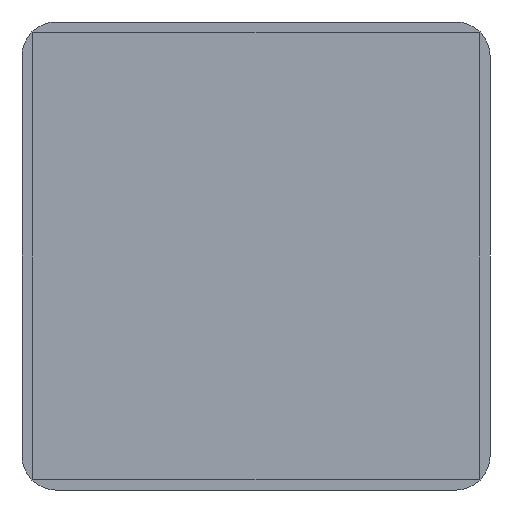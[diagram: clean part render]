
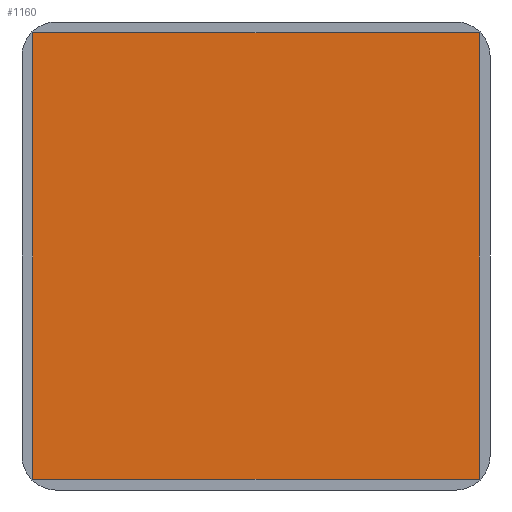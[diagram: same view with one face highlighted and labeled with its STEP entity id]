
A CAD part, front view. The second image highlights one B-rep face of the part: STEP entity #1160.
In plain terms, the highlighted planar face has unit normal (0, -1, 0).
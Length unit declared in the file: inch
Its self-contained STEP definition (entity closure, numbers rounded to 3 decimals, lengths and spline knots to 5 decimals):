
#335 = CARTESIAN_POINT ( 'NONE',  ( -0.64961, -0.005, 0.64961 ) ) ;
#832 = EDGE_CURVE ( 'NONE', #4689, #6027, #7470, .T. ) ;
#950 = CARTESIAN_POINT ( 'NONE',  ( -0.64961, -0.005, -0.64961 ) ) ;
#1160 = ADVANCED_FACE ( 'NONE', ( #1611 ), #2229, .F. ) ;
#1232 = VECTOR ( 'NONE', #3183, 39.37008 ) ;
#1441 = VERTEX_POINT ( 'NONE', #5113 ) ;
#1611 = FACE_OUTER_BOUND ( 'NONE', #6537, .T. ) ;
#1641 = LINE ( 'NONE', #4615, #4373 ) ;
#1698 = CARTESIAN_POINT ( 'NONE',  ( 0.64961, -0.005, -0.64961 ) ) ;
#1783 = EDGE_CURVE ( 'NONE', #1441, #4689, #7801, .T. ) ;
#1940 = ORIENTED_EDGE ( 'NONE', *, *, #1783, .F. ) ;
#2229 = PLANE ( 'NONE',  #5052 ) ;
#2322 = ORIENTED_EDGE ( 'NONE', *, *, #5112, .F. ) ;
#2597 = VERTEX_POINT ( 'NONE', #335 ) ;
#2697 = ORIENTED_EDGE ( 'NONE', *, *, #832, .F. ) ;
#2804 = EDGE_CURVE ( 'NONE', #2597, #1441, #1641, .T. ) ;
#3183 = DIRECTION ( 'NONE',  ( -1., 0., 0. ) ) ;
#3391 = DIRECTION ( 'NONE',  ( 0., 0., 1. ) ) ;
#3489 = DIRECTION ( 'NONE',  ( 0., 0., 1. ) ) ;
#4099 = LINE ( 'NONE', #5204, #7301 ) ;
#4107 = DIRECTION ( 'NONE',  ( 1., 0., 0. ) ) ;
#4246 = DIRECTION ( 'NONE',  ( 0., 0., -1. ) ) ;
#4373 = VECTOR ( 'NONE', #4107, 39.37008 ) ;
#4615 = CARTESIAN_POINT ( 'NONE',  ( -0.64961, -0.005, 0.64961 ) ) ;
#4689 = VERTEX_POINT ( 'NONE', #4841 ) ;
#4841 = CARTESIAN_POINT ( 'NONE',  ( 0.64961, -0.005, -0.64961 ) ) ;
#5052 = AXIS2_PLACEMENT_3D ( 'NONE', #6897, #7732, #3391 ) ;
#5112 = EDGE_CURVE ( 'NONE', #6027, #2597, #4099, .T. ) ;
#5113 = CARTESIAN_POINT ( 'NONE',  ( 0.64961, -0.005, 0.64961 ) ) ;
#5204 = CARTESIAN_POINT ( 'NONE',  ( -0.64961, -0.005, -0.64961 ) ) ;
#5483 = VECTOR ( 'NONE', #4246, 39.37008 ) ;
#6027 = VERTEX_POINT ( 'NONE', #950 ) ;
#6148 = CARTESIAN_POINT ( 'NONE',  ( -0.64961, -0.005, -0.64961 ) ) ;
#6537 = EDGE_LOOP ( 'NONE', ( #2322, #2697, #1940, #7583 ) ) ;
#6897 = CARTESIAN_POINT ( 'NONE',  ( -0.64961, -0.005, 0.64961 ) ) ;
#7301 = VECTOR ( 'NONE', #3489, 39.37008 ) ;
#7470 = LINE ( 'NONE', #6148, #1232 ) ;
#7583 = ORIENTED_EDGE ( 'NONE', *, *, #2804, .F. ) ;
#7732 = DIRECTION ( 'NONE',  ( 0., 1., 0. ) ) ;
#7801 = LINE ( 'NONE', #1698, #5483 ) ;
